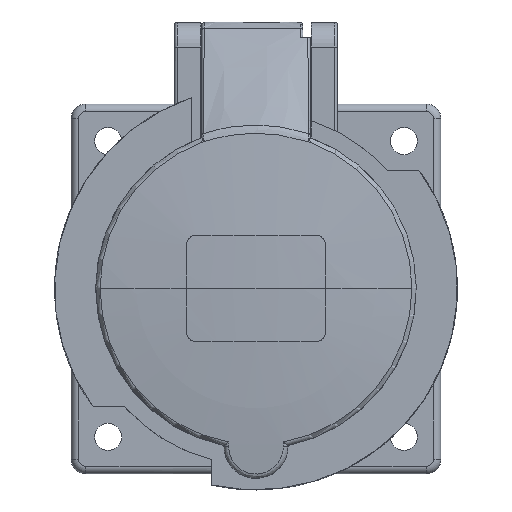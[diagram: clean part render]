
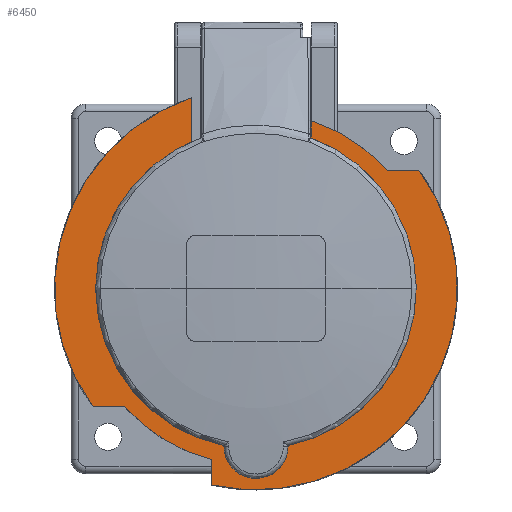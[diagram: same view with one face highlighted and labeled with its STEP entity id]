
A CAD part, top view. The second image highlights one B-rep face of the part: STEP entity #6450.
In plain terms, the highlighted planar face has unit normal (0, 0, 1).
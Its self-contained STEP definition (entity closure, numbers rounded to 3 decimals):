
#6233 = VERTEX_POINT('',#6234);
#6234 = CARTESIAN_POINT('',(11.2,34.056,48.5));
#6242 = EDGE_CURVE('',#6243,#6233,#6245,.T.);
#6243 = VERTEX_POINT('',#6244);
#6244 = CARTESIAN_POINT('',(26.631,24.,48.5));
#6245 = CIRCLE('',#6246,35.85);
#6246 = AXIS2_PLACEMENT_3D('',#6247,#6248,#6249);
#6247 = CARTESIAN_POINT('',(0.,0.,48.5));
#6248 = DIRECTION('',(0.,0.,1.));
#6249 = DIRECTION('',(0.743,0.669,-0.));
#6319 = VERTEX_POINT('',#6320);
#6320 = CARTESIAN_POINT('',(-9.,-34.702,48.5));
#6326 = EDGE_CURVE('',#6327,#6319,#6329,.T.);
#6327 = VERTEX_POINT('',#6328);
#6328 = CARTESIAN_POINT('',(-26.631,-24.,48.5));
#6329 = CIRCLE('',#6330,35.85);
#6330 = AXIS2_PLACEMENT_3D('',#6331,#6332,#6333);
#6331 = CARTESIAN_POINT('',(0.,0.,48.5));
#6332 = DIRECTION('',(0.,0.,1.));
#6333 = DIRECTION('',(-0.743,-0.669,0.));
#6431 = VERTEX_POINT('',#6432);
#6432 = CARTESIAN_POINT('',(11.2,31.7,48.5));
#6438 = EDGE_CURVE('',#6233,#6431,#6439,.T.);
#6439 = LINE('',#6440,#6441);
#6440 = CARTESIAN_POINT('',(11.2,34.056,48.5));
#6441 = VECTOR('',#6442,1.);
#6442 = DIRECTION('',(0.,-1.,0.));
#6450 = ADVANCED_FACE('',(#6451),#6537,.F.);
#6451 = FACE_BOUND('',#6452,.T.);
#6452 = EDGE_LOOP('',(#6453,#6461,#6462,#6463,#6471,#6480,#6489,#6498,
    #6506,#6515,#6521,#6522,#6530));
#6453 = ORIENTED_EDGE('',*,*,#6454,.T.);
#6454 = EDGE_CURVE('',#6455,#6243,#6457,.T.);
#6455 = VERTEX_POINT('',#6456);
#6456 = CARTESIAN_POINT('',(33.056,24.,48.5));
#6457 = LINE('',#6458,#6459);
#6458 = CARTESIAN_POINT('',(33.056,24.,48.5));
#6459 = VECTOR('',#6460,1.);
#6460 = DIRECTION('',(-1.,0.,0.));
#6461 = ORIENTED_EDGE('',*,*,#6242,.T.);
#6462 = ORIENTED_EDGE('',*,*,#6438,.T.);
#6463 = ORIENTED_EDGE('',*,*,#6464,.T.);
#6464 = EDGE_CURVE('',#6431,#6465,#6467,.T.);
#6465 = VERTEX_POINT('',#6466);
#6466 = CARTESIAN_POINT('',(11.2,30.509,48.5));
#6467 = LINE('',#6468,#6469);
#6468 = CARTESIAN_POINT('',(11.2,31.7,48.5));
#6469 = VECTOR('',#6470,1.);
#6470 = DIRECTION('',(0.,-1.,0.));
#6471 = ORIENTED_EDGE('',*,*,#6472,.F.);
#6472 = EDGE_CURVE('',#6473,#6465,#6475,.T.);
#6473 = VERTEX_POINT('',#6474);
#6474 = CARTESIAN_POINT('',(6.498,-31.844,48.5));
#6475 = CIRCLE('',#6476,32.5);
#6476 = AXIS2_PLACEMENT_3D('',#6477,#6478,#6479);
#6477 = CARTESIAN_POINT('',(0.,0.,48.5));
#6478 = DIRECTION('',(0.,0.,1.));
#6479 = DIRECTION('',(0.2,-0.98,0.));
#6480 = ORIENTED_EDGE('',*,*,#6481,.F.);
#6481 = EDGE_CURVE('',#6482,#6473,#6484,.T.);
#6482 = VERTEX_POINT('',#6483);
#6483 = CARTESIAN_POINT('',(-6.498,-31.844,48.5));
#6484 = CIRCLE('',#6485,6.5);
#6485 = AXIS2_PLACEMENT_3D('',#6486,#6487,#6488);
#6486 = CARTESIAN_POINT('',(0.,-32.,48.5));
#6487 = DIRECTION('',(0.,0.,1.));
#6488 = DIRECTION('',(-1.,0.024,0.));
#6489 = ORIENTED_EDGE('',*,*,#6490,.F.);
#6490 = EDGE_CURVE('',#6491,#6482,#6493,.T.);
#6491 = VERTEX_POINT('',#6492);
#6492 = CARTESIAN_POINT('',(-13.,29.787,48.5));
#6493 = CIRCLE('',#6494,32.5);
#6494 = AXIS2_PLACEMENT_3D('',#6495,#6496,#6497);
#6495 = CARTESIAN_POINT('',(0.,0.,48.5));
#6496 = DIRECTION('',(0.,0.,1.));
#6497 = DIRECTION('',(-0.4,0.917,0.));
#6498 = ORIENTED_EDGE('',*,*,#6499,.T.);
#6499 = EDGE_CURVE('',#6491,#6500,#6502,.T.);
#6500 = VERTEX_POINT('',#6501);
#6501 = CARTESIAN_POINT('',(-13.,38.726,48.5));
#6502 = LINE('',#6503,#6504);
#6503 = CARTESIAN_POINT('',(-13.,29.787,48.5));
#6504 = VECTOR('',#6505,1.);
#6505 = DIRECTION('',(0.,1.,0.));
#6506 = ORIENTED_EDGE('',*,*,#6507,.T.);
#6507 = EDGE_CURVE('',#6500,#6508,#6510,.T.);
#6508 = VERTEX_POINT('',#6509);
#6509 = CARTESIAN_POINT('',(-33.056,-24.,48.5));
#6510 = CIRCLE('',#6511,40.85);
#6511 = AXIS2_PLACEMENT_3D('',#6512,#6513,#6514);
#6512 = CARTESIAN_POINT('',(0.,0.,48.5));
#6513 = DIRECTION('',(0.,0.,1.));
#6514 = DIRECTION('',(-0.318,0.948,0.));
#6515 = ORIENTED_EDGE('',*,*,#6516,.T.);
#6516 = EDGE_CURVE('',#6508,#6327,#6517,.T.);
#6517 = LINE('',#6518,#6519);
#6518 = CARTESIAN_POINT('',(-33.056,-24.,48.5));
#6519 = VECTOR('',#6520,1.);
#6520 = DIRECTION('',(1.,0.,0.));
#6521 = ORIENTED_EDGE('',*,*,#6326,.T.);
#6522 = ORIENTED_EDGE('',*,*,#6523,.F.);
#6523 = EDGE_CURVE('',#6524,#6319,#6526,.T.);
#6524 = VERTEX_POINT('',#6525);
#6525 = CARTESIAN_POINT('',(-9.,-39.846,48.5));
#6526 = LINE('',#6527,#6528);
#6527 = CARTESIAN_POINT('',(-9.,-39.846,48.5));
#6528 = VECTOR('',#6529,1.);
#6529 = DIRECTION('',(0.,1.,0.));
#6530 = ORIENTED_EDGE('',*,*,#6531,.T.);
#6531 = EDGE_CURVE('',#6524,#6455,#6532,.T.);
#6532 = CIRCLE('',#6533,40.85);
#6533 = AXIS2_PLACEMENT_3D('',#6534,#6535,#6536);
#6534 = CARTESIAN_POINT('',(0.,0.,48.5));
#6535 = DIRECTION('',(0.,0.,1.));
#6536 = DIRECTION('',(-0.22,-0.975,0.));
#6537 = PLANE('',#6538);
#6538 = AXIS2_PLACEMENT_3D('',#6539,#6540,#6541);
#6539 = CARTESIAN_POINT('',(0.,0.,48.5));
#6540 = DIRECTION('',(0.,0.,-1.));
#6541 = DIRECTION('',(1.,0.,0.));
